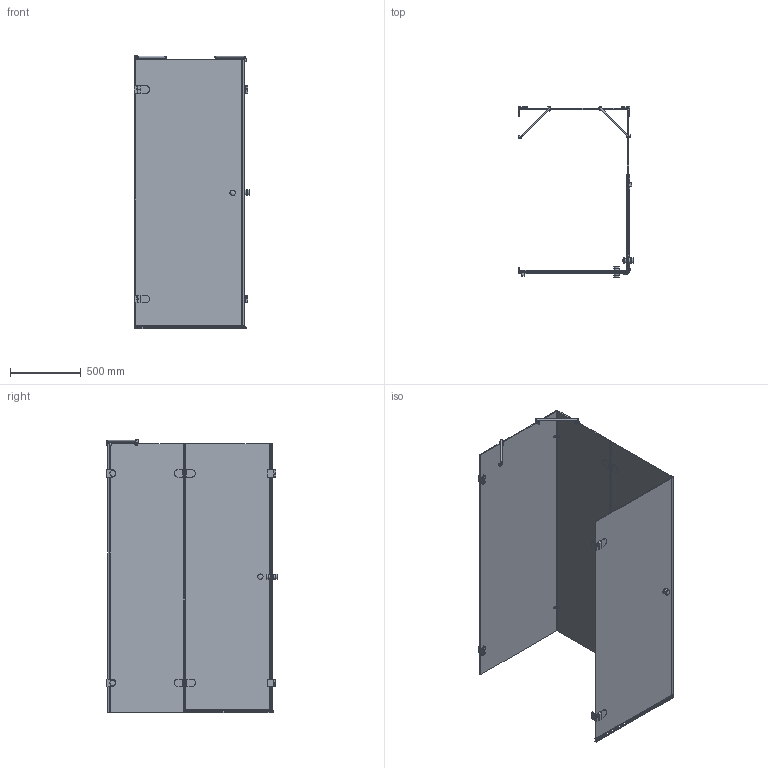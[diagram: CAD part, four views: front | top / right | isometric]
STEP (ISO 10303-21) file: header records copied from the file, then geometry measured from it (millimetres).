
FILE_DESCRIPTION(/* description */ (''),/* implementation_level */ '2;1');
FILE_NAME(/* name */ 'D:\4\LUX RECTAN GK-004B4\LUX RECTAN GK-004B4 правая модель\LUX RECTAN GK-004B4 ПРАВАЯ-3D.stp',/* time_stamp */ '2018-02-06T14:03:44+03:00',/* author */ ('ChechurovS'),/* organization */ (''),/* preprocessor_version */ 'ST-DEVELOPER v15.2',/* originating_system */ 'Autodesk Inventor 2014',/* authorisation */ '');
FILE_SCHEMA (('CONFIG_CONTROL_DESIGN'));
Length unit declared in the file: millimetre
Products named in the file (1): LUX RECTAN GK-004B4 ПРАВАЯ-3
D
Bounding box: 817 x 1210 x 1931.5 mm (x, y, z)
Volume: 36782226.7 mm3; surface area: 10787081.7 mm2
Topology: 10 solids, 10 shells, 886 faces, 2324 edges, 1507 vertices
Faces by surface type: plane 609, cylinder 227, torus 22, sphere 13, bspline 9, cone 6
Full cylindrical faces by diameter (mm): 11 x4, 12 x3, 15 x2, 18 x4, 20 x4, 26 x1, 35 x2, 38 x8, 40 x2
Entity records: 28529 total; most frequent: CARTESIAN_POINT 5894, ORIENTED_EDGE 4472, DIRECTION 4430, EDGE_CURVE 2236, LINE 1678, VECTOR 1678, VERTEX_POINT 1473, AXIS2_PLACEMENT_3D 1376
